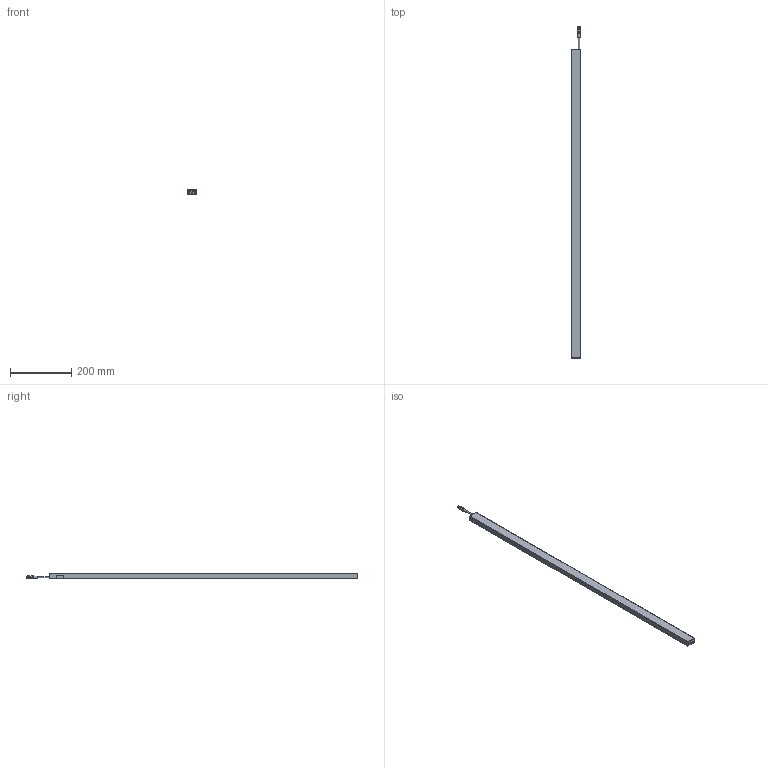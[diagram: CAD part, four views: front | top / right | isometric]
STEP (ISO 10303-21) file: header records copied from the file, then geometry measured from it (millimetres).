
FILE_DESCRIPTION(/* description */ (''),/* implementation_level */ '2;1');
FILE_NAME(/* name */ '10X.0106.YY_BB1000',/* time_stamp */ '2024-08-21T09:06:12+02:00',/* author */ (''),/* organization */ ('iiM AG'),/* preprocessor_version */ 'ST-DEVELOPER v16.7',/* originating_system */ 'DEX',/* authorisation */ $);
FILE_SCHEMA (('CONFIG_CONTROL_DESIGN'));
Length unit declared in the file: millimetre
Products named in the file (1): bb1000
Bounding box: 31 x 1083.44 x 18.32 mm (x, y, z)
Volume: 300563.8 mm3; surface area: 194967.6 mm2
Topology: 2 solids, 2 shells, 218 faces, 565 edges, 366 vertices
Faces by surface type: cylinder 99, plane 98, cone 16, bspline 4, torus 1
Full cylindrical faces by diameter (mm): 1 x4, 2 x1, 3.242 x18, 4.1 x2, 4.2 x2, 5.7 x1, 6.35 x1, 8 x2, 9 x1, 9.3 x2, 10 x1
Entity records: 8495 total; most frequent: CARTESIAN_POINT 1916, DIRECTION 1078, ORIENTED_EDGE 984, EDGE_CURVE 492, AXIS2_PLACEMENT_3D 419, VERTEX_POINT 346, FACE_BOUND 300, EDGE_LOOP 294
